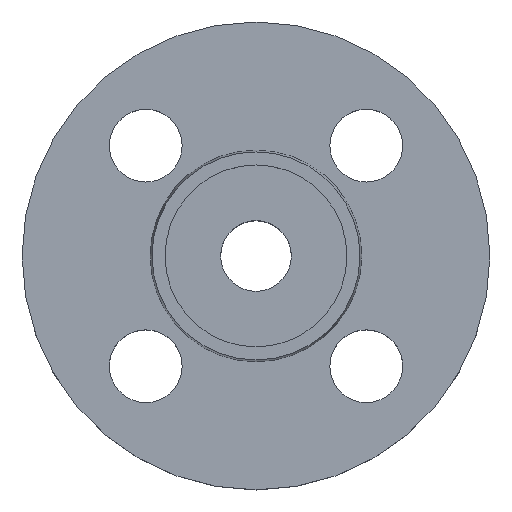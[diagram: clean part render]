
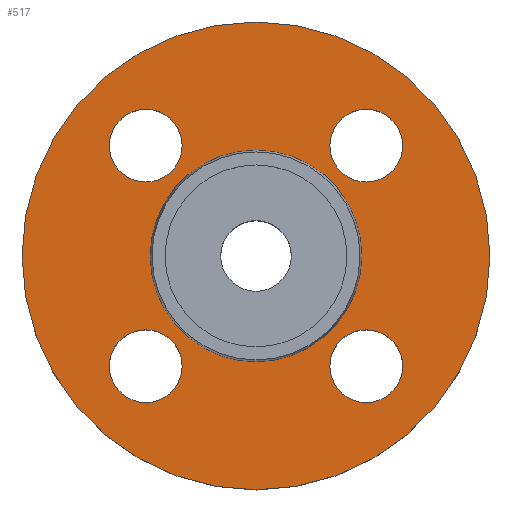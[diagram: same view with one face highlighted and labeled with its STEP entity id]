
A CAD part, top view. The second image highlights one B-rep face of the part: STEP entity #517.
In plain terms, the highlighted planar face has unit normal (0, 0, 1).
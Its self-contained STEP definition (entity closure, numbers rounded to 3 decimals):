
#1 = AXIS2_PLACEMENT_3D ( 'NONE', #318, #316, #315 ) ;
#15 = CIRCLE ( 'NONE', #310, 7. ) ;
#21 = CIRCLE ( 'NONE', #30, 7. ) ;
#29 = VERTEX_POINT ( 'NONE', #895 ) ;
#30 = AXIS2_PLACEMENT_3D ( 'NONE', #234, #233, #232 ) ;
#31 = EDGE_CURVE ( 'NONE', #29, #800, #418, .T. ) ;
#56 = CIRCLE ( 'NONE', #57, 7. ) ;
#57 = AXIS2_PLACEMENT_3D ( 'NONE', #139, #138, #137 ) ;
#65 = DIRECTION ( 'NONE',  ( 1., 0., 0. ) ) ;
#82 = CIRCLE ( 'NONE', #706, 45. ) ;
#100 = CARTESIAN_POINT ( 'NONE',  ( 28.213, 21.213, -2. ) ) ;
#105 = CARTESIAN_POINT ( 'NONE',  ( -28.213, 21.213, -2. ) ) ;
#107 = CARTESIAN_POINT ( 'NONE',  ( -20.353, 0., -2. ) ) ;
#111 = CARTESIAN_POINT ( 'NONE',  ( -14.213, 21.213, -2. ) ) ;
#113 = CIRCLE ( 'NONE', #218, 7. ) ;
#119 = AXIS2_PLACEMENT_3D ( 'NONE', #300, #299, #295 ) ;
#130 = CARTESIAN_POINT ( 'NONE',  ( 28.213, -21.213, -2. ) ) ;
#137 = DIRECTION ( 'NONE',  ( 1., 0., 0. ) ) ;
#138 = DIRECTION ( 'NONE',  ( 0., 0., -1. ) ) ;
#139 = CARTESIAN_POINT ( 'NONE',  ( 21.213, 21.213, -2. ) ) ;
#140 = CARTESIAN_POINT ( 'NONE',  ( -45., 0., -2. ) ) ;
#170 = CARTESIAN_POINT ( 'NONE',  ( -28.213, -21.213, -2. ) ) ;
#186 = EDGE_CURVE ( 'NONE', #800, #29, #607, .T. ) ;
#190 = AXIS2_PLACEMENT_3D ( 'NONE', #758, #761, #763 ) ;
#211 = ORIENTED_EDGE ( 'NONE', *, *, #825, .T. ) ;
#213 = EDGE_CURVE ( 'NONE', #675, #821, #82, .T. ) ;
#218 = AXIS2_PLACEMENT_3D ( 'NONE', #845, #391, #748 ) ;
#223 = CARTESIAN_POINT ( 'NONE',  ( 14.213, 21.213, -2. ) ) ;
#230 = CARTESIAN_POINT ( 'NONE',  ( 45., 0., -2. ) ) ;
#232 = DIRECTION ( 'NONE',  ( 1., 0., 0. ) ) ;
#233 = DIRECTION ( 'NONE',  ( 0., 0., -1. ) ) ;
#234 = CARTESIAN_POINT ( 'NONE',  ( -21.213, 21.213, -2. ) ) ;
#243 = AXIS2_PLACEMENT_3D ( 'NONE', #817, #831, #834 ) ;
#269 = AXIS2_PLACEMENT_3D ( 'NONE', #361, #362, #366 ) ;
#295 = DIRECTION ( 'NONE',  ( -1., 0., 0. ) ) ;
#297 = CIRCLE ( 'NONE', #243, 7. ) ;
#299 = DIRECTION ( 'NONE',  ( 0., 0., -1. ) ) ;
#300 = CARTESIAN_POINT ( 'NONE',  ( 0., 0., -2. ) ) ;
#302 = CARTESIAN_POINT ( 'NONE',  ( 14.213, -21.213, -2. ) ) ;
#310 = AXIS2_PLACEMENT_3D ( 'NONE', #871, #390, #65 ) ;
#311 = CARTESIAN_POINT ( 'NONE',  ( 20.353, 0., -2. ) ) ;
#315 = DIRECTION ( 'NONE',  ( -1., 0., 0. ) ) ;
#316 = DIRECTION ( 'NONE',  ( 0., 0., -1. ) ) ;
#318 = CARTESIAN_POINT ( 'NONE',  ( 0., 0., -2. ) ) ;
#345 = AXIS2_PLACEMENT_3D ( 'NONE', #896, #897, #898 ) ;
#350 = EDGE_CURVE ( 'NONE', #821, #675, #480, .T. ) ;
#354 = ORIENTED_EDGE ( 'NONE', *, *, #468, .T. ) ;
#361 = CARTESIAN_POINT ( 'NONE',  ( -21.213, -21.213, -2. ) ) ;
#362 = DIRECTION ( 'NONE',  ( 0., 0., -1. ) ) ;
#363 = AXIS2_PLACEMENT_3D ( 'NONE', #557, #568, #571 ) ;
#366 = DIRECTION ( 'NONE',  ( 1., 0., 0. ) ) ;
#378 = CIRCLE ( 'NONE', #119, 20.353 ) ;
#390 = DIRECTION ( 'NONE',  ( 0., 0., -1. ) ) ;
#391 = DIRECTION ( 'NONE',  ( 0., 0., -1. ) ) ;
#409 = FACE_OUTER_BOUND ( 'NONE', #592, .T. ) ;
#416 = FACE_BOUND ( 'NONE', #602, .T. ) ;
#418 = CIRCLE ( 'NONE', #345, 7. ) ;
#420 = FACE_BOUND ( 'NONE', #619, .T. ) ;
#425 = FACE_BOUND ( 'NONE', #688, .T. ) ;
#429 = CARTESIAN_POINT ( 'NONE',  ( 0., 0., -2. ) ) ;
#433 = FACE_BOUND ( 'NONE', #603, .T. ) ;
#436 = CIRCLE ( 'NONE', #190, 7. ) ;
#437 = FACE_BOUND ( 'NONE', #700, .T. ) ;
#444 = DIRECTION ( 'NONE',  ( 0., 0., -1. ) ) ;
#450 = DIRECTION ( 'NONE',  ( 0., 0., 1. ) ) ;
#452 = EDGE_CURVE ( 'NONE', #856, #575, #436, .T. ) ;
#460 = EDGE_CURVE ( 'NONE', #702, #867, #297, .T. ) ;
#466 = DIRECTION ( 'NONE',  ( 1., 0., 0. ) ) ;
#468 = EDGE_CURVE ( 'NONE', #864, #842, #113, .T. ) ;
#477 = EDGE_CURVE ( 'NONE', #575, #856, #15, .T. ) ;
#480 = CIRCLE ( 'NONE', #363, 45. ) ;
#517 = ADVANCED_FACE ( 'NONE', ( #425, #437, #420, #433, #416, #409 ), #902, .T. ) ;
#553 = AXIS2_PLACEMENT_3D ( 'NONE', #667, #450, #466 ) ;
#557 = CARTESIAN_POINT ( 'NONE',  ( 0., 0., -2. ) ) ;
#562 = EDGE_CURVE ( 'NONE', #565, #860, #681, .T. ) ;
#565 = VERTEX_POINT ( 'NONE', #311 ) ;
#568 = DIRECTION ( 'NONE',  ( 0., 0., -1. ) ) ;
#571 = DIRECTION ( 'NONE',  ( -1., 0., 0. ) ) ;
#575 = VERTEX_POINT ( 'NONE', #302 ) ;
#578 = EDGE_CURVE ( 'NONE', #860, #565, #378, .T. ) ;
#592 = EDGE_LOOP ( 'NONE', ( #746, #747 ) ) ;
#602 = EDGE_LOOP ( 'NONE', ( #743, #744 ) ) ;
#603 = EDGE_LOOP ( 'NONE', ( #211, #741 ) ) ;
#607 = CIRCLE ( 'NONE', #269, 7. ) ;
#619 = EDGE_LOOP ( 'NONE', ( #739, #354 ) ) ;
#667 = CARTESIAN_POINT ( 'NONE',  ( 20.353, 0., -2. ) ) ;
#672 = EDGE_CURVE ( 'NONE', #842, #864, #21, .T. ) ;
#675 = VERTEX_POINT ( 'NONE', #230 ) ;
#681 = CIRCLE ( 'NONE', #1, 20.353 ) ;
#688 = EDGE_LOOP ( 'NONE', ( #734, #735 ) ) ;
#700 = EDGE_LOOP ( 'NONE', ( #737, #738 ) ) ;
#702 = VERTEX_POINT ( 'NONE', #223 ) ;
#706 = AXIS2_PLACEMENT_3D ( 'NONE', #429, #444, #844 ) ;
#734 = ORIENTED_EDGE ( 'NONE', *, *, #452, .T. ) ;
#735 = ORIENTED_EDGE ( 'NONE', *, *, #477, .T. ) ;
#737 = ORIENTED_EDGE ( 'NONE', *, *, #31, .T. ) ;
#738 = ORIENTED_EDGE ( 'NONE', *, *, #186, .T. ) ;
#739 = ORIENTED_EDGE ( 'NONE', *, *, #672, .T. ) ;
#741 = ORIENTED_EDGE ( 'NONE', *, *, #460, .T. ) ;
#743 = ORIENTED_EDGE ( 'NONE', *, *, #578, .T. ) ;
#744 = ORIENTED_EDGE ( 'NONE', *, *, #562, .T. ) ;
#746 = ORIENTED_EDGE ( 'NONE', *, *, #213, .F. ) ;
#747 = ORIENTED_EDGE ( 'NONE', *, *, #350, .F. ) ;
#748 = DIRECTION ( 'NONE',  ( 1., 0., 0. ) ) ;
#758 = CARTESIAN_POINT ( 'NONE',  ( 21.213, -21.213, -2. ) ) ;
#761 = DIRECTION ( 'NONE',  ( 0., 0., -1. ) ) ;
#763 = DIRECTION ( 'NONE',  ( 1., 0., 0. ) ) ;
#800 = VERTEX_POINT ( 'NONE', #170 ) ;
#817 = CARTESIAN_POINT ( 'NONE',  ( 21.213, 21.213, -2. ) ) ;
#821 = VERTEX_POINT ( 'NONE', #140 ) ;
#825 = EDGE_CURVE ( 'NONE', #867, #702, #56, .T. ) ;
#831 = DIRECTION ( 'NONE',  ( 0., 0., -1. ) ) ;
#834 = DIRECTION ( 'NONE',  ( 1., 0., 0. ) ) ;
#842 = VERTEX_POINT ( 'NONE', #111 ) ;
#844 = DIRECTION ( 'NONE',  ( -1., 0., 0. ) ) ;
#845 = CARTESIAN_POINT ( 'NONE',  ( -21.213, 21.213, -2. ) ) ;
#856 = VERTEX_POINT ( 'NONE', #130 ) ;
#860 = VERTEX_POINT ( 'NONE', #107 ) ;
#864 = VERTEX_POINT ( 'NONE', #105 ) ;
#867 = VERTEX_POINT ( 'NONE', #100 ) ;
#871 = CARTESIAN_POINT ( 'NONE',  ( 21.213, -21.213, -2. ) ) ;
#895 = CARTESIAN_POINT ( 'NONE',  ( -14.213, -21.213, -2. ) ) ;
#896 = CARTESIAN_POINT ( 'NONE',  ( -21.213, -21.213, -2. ) ) ;
#897 = DIRECTION ( 'NONE',  ( 0., 0., -1. ) ) ;
#898 = DIRECTION ( 'NONE',  ( 1., 0., 0. ) ) ;
#902 = PLANE ( 'NONE',  #553 ) ;
